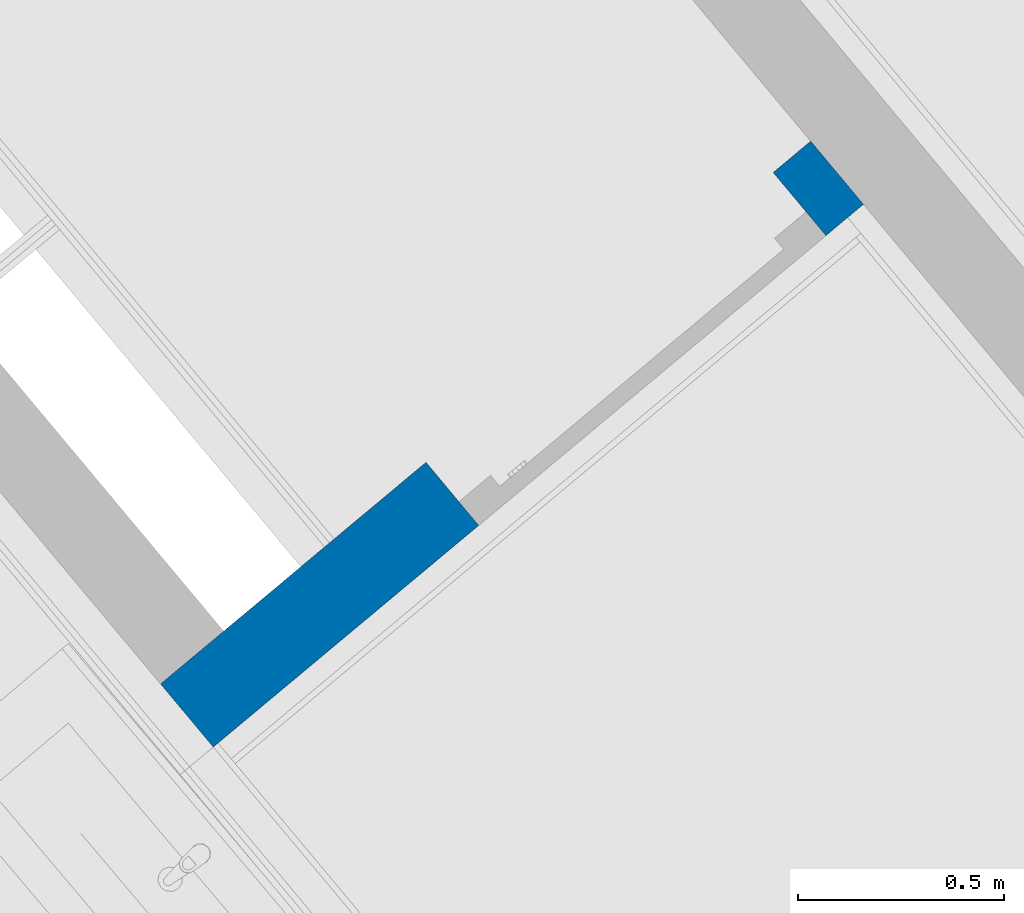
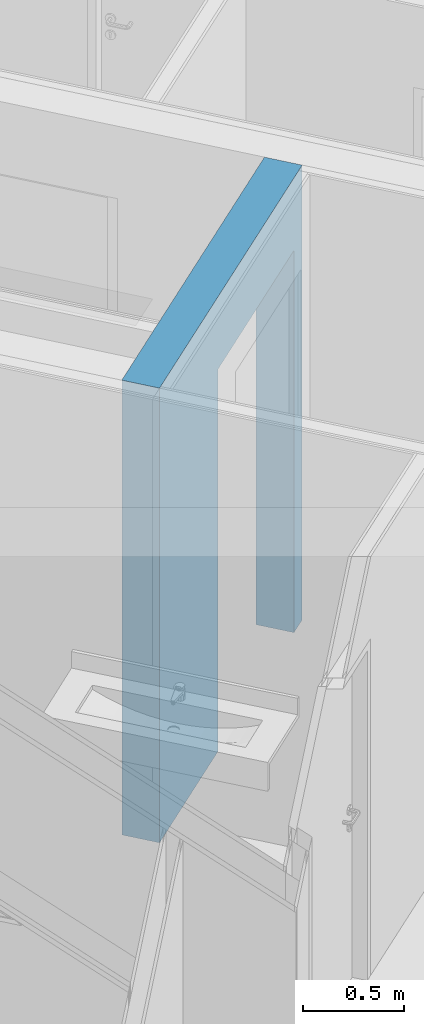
# One storey, part 7 of 53: 1 wall, 1 opening.
"""IFC4 building model written with IfcOpenShell, lengths in metres."""

from ifc_helpers import new_model, entity, si_unit, converted_unit, derived_unit, direction, frame, origin_with_axes, place, context, subcontext, project, spatial, polygons, material, type_object, element, save


model = new_model("IFC4")

# Units and contexts
model_context = context("Model", 3, precision=1e-05, world=origin_with_axes(), true_north=direction((0.0, 1.0)))
body_context = subcontext(model_context, "Body", "Model", "MODEL_VIEW")
ifc_project = project(units=[si_unit("LENGTHUNIT", "METRE"), si_unit("AREAUNIT", "SQUARE_METRE"), si_unit("VOLUMEUNIT", "CUBIC_METRE"), converted_unit("PLANEANGLEUNIT", "DEGREE", entity("IfcPlaneAngleMeasure", 0.0174532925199), si_unit("PLANEANGLEUNIT", "RADIAN"), dimensions=[0, 0, 0, 0, 0, 0, 0]), converted_unit("TIMEUNIT", "Year", entity("IfcTimeMeasure", 31556926.0), si_unit("TIMEUNIT", "SECOND"), dimensions=[0, 0, 1, 0, 0, 0, 0]), si_unit("MASSUNIT", "GRAM", prefix="KILO"), si_unit("THERMODYNAMICTEMPERATUREUNIT", "DEGREE_CELSIUS"), si_unit("LUMINOUSINTENSITYUNIT", "LUMEN"), si_unit("ENERGYUNIT", "JOULE", prefix="MEGA"), derived_unit("THERMALCONDUCTANCEUNIT", [(si_unit("POWERUNIT", "WATT"), 1), (si_unit("LENGTHUNIT", "METRE"), -1), (si_unit("THERMODYNAMICTEMPERATUREUNIT", "KELVIN"), -1)]), derived_unit("SPECIFICHEATCAPACITYUNIT", [(si_unit("ENERGYUNIT", "JOULE"), 1), (si_unit("MASSUNIT", "GRAM", prefix="KILO"), -1), (si_unit("THERMODYNAMICTEMPERATUREUNIT", "KELVIN"), -1)]), derived_unit("MASSDENSITYUNIT", [(si_unit("MASSUNIT", "GRAM", prefix="KILO"), 1), (si_unit("VOLUMEUNIT", "CUBIC_METRE"), -1)])], contexts=[model_context])

# Site, building, storey
site_placement = place(None, frame((-0.00153261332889, -0.00661245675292, 0.0), z_axis=(0.0, 0.0, 1.0), x_axis=(1.0, 0.0, 0.0)))
site = spatial("IfcSite", under=ifc_project, at=site_placement, Name="Gelände", CompositionType="ELEMENT")
building_placement = place(site_placement, origin_with_axes())
building = spatial("IfcBuilding", under=site, at=building_placement, Name="Gebäude", CompositionType="ELEMENT")
storey_placement = place(building_placement, frame((0.0, 0.0, 2.74), z_axis=(0.0, 0.0, 1.0), x_axis=(1.0, 0.0, 0.0)))
storey = spatial("IfcBuildingStorey", under=building, at=storey_placement, Name="OG1", CompositionType="ELEMENT", Elevation=2.74)

# Wall, opening
ifc_material = material(Name="Stahlbeton Wand")
wall_type = type_object("IfcWallType", Name="Stahlbeton Wand 200", PredefinedType="NOTDEFINED")
wall_placement = place(storey_placement, frame((3.23525106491, 22.230161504, 0.0), z_axis=(0.0, 0.0, 1.0), x_axis=(-0.767670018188, -0.640845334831, 0.0)))
wall = element("IfcWall", 1, at=wall_placement, inside=storey, type_object=wall_type, material=ifc_material, Name="Wand-003", PredefinedType="NOTDEFINED", context=body_context, shape_type="Tessellation", body=[
    polygons([(1.21873786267, -7.61218643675e-09, 0.22), (1.21873786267, -7.61218643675e-09, 2.32), (0.118737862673, -7.61218643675e-09, 2.32), (0.118737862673, 1.97544824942e-08, 0.22), (0.118737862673, 1.97544824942e-08, 0.0), (0.0, 0.0, 0.0), (0.0, 0.0, 2.76), (2.05944411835, 0.0, 2.76), (2.05944411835, 0.0, 0.0), (1.21873785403, -7.61218643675e-09, 0.0), (1.21873786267, -0.075, 0.22), (1.21873786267, -0.075, 2.32), (0.118737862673, -0.075, 2.32), (0.118737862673, -0.075, 0.22), (0.118737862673, -0.2, 0.22), (0.118737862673, -0.2, 0.0), (0.0, -0.2, 0.0), (0.0, -0.2, 2.76), (2.05953901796, -0.2, 2.76), (2.05953901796, -0.2, 0.0), (1.2187378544, -0.2, 0.0), (1.21873786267, -0.2, 0.22), (1.21873786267, -0.2, 2.32), (0.118737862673, -0.2, 2.32)], [[[1, 2, 3, 4, 5, 6, 7, 8, 9, 10]], [[2, 1, 11, 12]], [[3, 2, 12, 13]], [[4, 3, 13, 14]], [[4, 14, 15, 16, 5]], [[16, 17, 6, 5]], [[17, 18, 7, 6]], [[19, 8, 7, 18]], [[8, 19, 20, 9]], [[10, 9, 20, 21]], [[11, 1, 10, 21, 22]], [[12, 11, 22, 23]], [[13, 12, 23, 24]], [[14, 13, 24, 15]], [[16, 15, 24, 23, 22, 21, 20, 19, 18, 17]]], closed=True),
])
opening_placement = place(wall_placement, frame((0.668737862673, 0.0, 0.22), z_axis=(0.0, 0.0, 1.0), x_axis=(1.0, 0.0, 0.0)))
element("IfcOpeningElement", 2, at=opening_placement, cuts=wall, Name="Tür-001", context=body_context, identifier="Reference", shape_type="Tessellation", body=[
    polygons([(0.55, -0.075, -0.22), (0.55, -0.075, 2.1), (0.55, -1.2141594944, 2.1), (0.55, -1.2141594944, -0.22), (0.55, 1.0141594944, -0.22), (0.55, 1.0141594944, 2.1), (-0.55, -0.075, 2.1), (-0.55, -1.2141594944, 2.1), (-0.55, 1.0141594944, 2.1), (-0.55, -1.2141594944, -0.22), (-0.55, -0.075, -0.22), (-0.55, 1.0141594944, -0.22)], [[[1, 2, 3, 4]], [[2, 1, 5, 6]], [[7, 8, 3, 2, 6, 9]], [[8, 10, 4, 3]], [[1, 4, 10, 11, 12, 5]], [[6, 5, 12, 9]], [[7, 11, 10, 8]], [[11, 7, 9, 12]]], closed=True),
])

save(model, "model.ifc")
